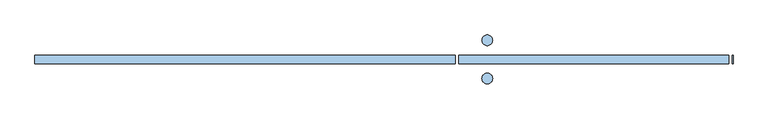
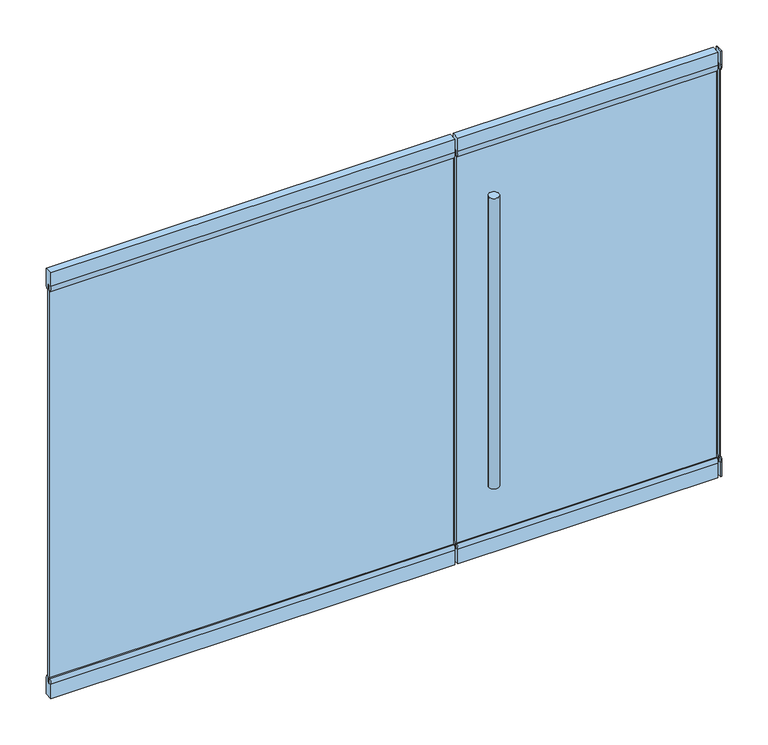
"""IFC4 building model written with IfcOpenShell, lengths in millimetres: window geometry, Herculite-1 Puerta : VL-2 - Herculite-1 Puerta 3.28 X 2.20."""

import ifcopenshell
import ifcopenshell.guid

model = None  # the IFC model being written
_history = None  # IfcOwnerHistory: only IFC2X3 demands one
_inside = {}  # id of a spatial element -> (the spatial element, [elements in it])
_under = {}  # id of a project, library or spatial element -> (it, [spatial elements below it])
_declared = {}  # id of a project -> (the project, [libraries it declares])
_typed = {}  # id of a type object -> (the type object, [elements of that type])
_made_of = {}  # id of a material, layer set ... -> (it, [elements and type objects made of it])


def new_model(schema):
    """Start an empty IFC model of exactly this schema.

    Asked for "IFC4X3", IfcOpenShell would pick the latest addendum, in which some entities
    have other attributes; the version numbers below select the first issue.
    IFC2X3 requires an IfcOwnerHistory on every rooted entity: one is made here for all.
    """
    global model, _history
    if schema == "IFC4X3":
        model = ifcopenshell.file(schema_version=(4, 3, 0, 0))
    else:
        model = ifcopenshell.file(schema=schema)
    _inside.clear()
    _under.clear()
    _declared.clear()
    _typed.clear()
    _made_of.clear()
    _history = None
    if model.schema == "IFC2X3":
        org = make("IfcOrganization", Name="unknown")
        user = make(
            "IfcPersonAndOrganization",
            ThePerson=make("IfcPerson", FamilyName="unknown"),
            TheOrganization=org,
        )
        app = make(
            "IfcApplication",
            ApplicationDeveloper=org,
            Version="unknown",
            ApplicationFullName="unknown",
            ApplicationIdentifier="unknown",
        )
        _history = make(
            "IfcOwnerHistory",
            OwningUser=user,
            OwningApplication=app,
            ChangeAction="ADDED",
            CreationDate=0,
        )
    return model


def make(cls, **values):
    """One entity of the class cls with the attributes given. An attribute that is None is left unset."""
    return model.create_entity(
        cls, **{name: value for name, value in values.items() if value is not None}
    )


def rooted(cls, **values):
    """An entity with a GlobalId (a new one), such as an element, a storey or a relation."""
    return make(cls, GlobalId=ifcopenshell.guid.new(), OwnerHistory=_history, **values)


def si_unit(unit_type, name, prefix=None):
    """IfcSIUnit, for example si_unit("LENGTHUNIT", "METRE", prefix="MILLI")."""
    return make("IfcSIUnit", UnitType=unit_type, Prefix=prefix, Name=name)


def assignment(units):
    """IfcUnitAssignment: the units of a project."""
    return None if units is None else make("IfcUnitAssignment", Units=units)


def point(xyz):
    """IfcCartesianPoint."""
    return None if xyz is None else make("IfcCartesianPoint", Coordinates=xyz)


def direction(xyz):
    """IfcDirection."""
    return None if xyz is None else make("IfcDirection", DirectionRatios=xyz)


def frame(location, z_axis=None, x_axis=None):
    """IfcAxis2Placement3D, a coordinate frame: its origin and axes. An axis left out is left unset."""
    return make(
        "IfcAxis2Placement3D",
        Location=point(location),
        Axis=direction(z_axis),
        RefDirection=direction(x_axis),
    )


def frame_2d(location, x_axis=None):
    """IfcAxis2Placement2D, a coordinate frame in the plane: its origin and x axis."""
    return make(
        "IfcAxis2Placement2D", Location=point(location), RefDirection=direction(x_axis)
    )


def origin():
    """The frame at (0, 0, 0) with its axes left unset."""
    return frame((0.0, 0.0, 0.0))


def place(relative_to, where):
    """IfcLocalPlacement: puts the frame where relative to a parent placement (None: the world)."""
    return make(
        "IfcLocalPlacement", PlacementRelTo=relative_to, RelativePlacement=where
    )


def context(
    kind, dimensions, precision=None, world=None, true_north=None, identifier=None
):
    """IfcGeometricRepresentationContext, for example the 3D "Model" context."""
    return make(
        "IfcGeometricRepresentationContext",
        ContextIdentifier=identifier,
        ContextType=kind,
        CoordinateSpaceDimension=dimensions,
        Precision=precision,
        WorldCoordinateSystem=world,
        TrueNorth=true_north,
    )


def project(units=None, contexts=None):
    """IfcProject with its units and contexts."""
    return rooted(
        "IfcProject",
        Name="project",
        RepresentationContexts=contexts,
        UnitsInContext=assignment(units),
    )


def spatial(cls, under=None, at=None, **own):
    """A site, building, storey or space (cls), placed at a placement, below another one or the project."""
    s = rooted(cls, ObjectPlacement=at, **own)
    if under is not None:
        _under.setdefault(under.id(), (under, []))[1].append(s)
    return s


def polyline(points):
    """IfcPolyline through the points."""
    return make("IfcPolyline", Points=[point(p) for p in points])


def circle_curve(where, radius):
    """IfcCircle in the frame where."""
    return make("IfcCircle", Position=where, Radius=radius)


def trimmed(basis, trim1, trim2, sense, master):
    """IfcTrimmedCurve: the piece of a basis curve between two trims."""
    return make(
        "IfcTrimmedCurve",
        BasisCurve=basis,
        Trim1=trim1,
        Trim2=trim2,
        SenseAgreement=sense,
        MasterRepresentation=master,
    )


def segment(curve, same_sense, transition):
    """IfcCompositeCurveSegment."""
    return make(
        "IfcCompositeCurveSegment",
        Transition=transition,
        SameSense=same_sense,
        ParentCurve=curve,
    )


def composite_curve(segments, self_intersect=None):
    """IfcCompositeCurve: segments joined end to end."""
    return make("IfcCompositeCurve", Segments=segments, SelfIntersect=self_intersect)


def outline(outer, holes=None, kind="AREA"):
    """IfcArbitraryClosedProfileDef: a profile drawn as a closed curve; with holes, ...WithVoids."""
    if holes is None:
        return make("IfcArbitraryClosedProfileDef", ProfileType=kind, OuterCurve=outer)
    return make(
        "IfcArbitraryProfileDefWithVoids",
        ProfileType=kind,
        OuterCurve=outer,
        InnerCurves=holes,
    )


def extrude(swept, where, along, depth):
    """IfcExtrudedAreaSolid: the profile swept, set in the frame where, extruded along a direction by depth."""
    return make(
        "IfcExtrudedAreaSolid",
        SweptArea=swept,
        Position=where,
        ExtrudedDirection=direction(along),
        Depth=depth,
    )


def shape(context_of_items, identifier, shape_type, items):
    """IfcShapeRepresentation: the items that make up one representation, for example the "Body"."""
    return make(
        "IfcShapeRepresentation",
        ContextOfItems=context_of_items,
        RepresentationIdentifier=identifier,
        RepresentationType=shape_type,
        Items=items,
    )


def source(mapping_origin, context_of_items, identifier, shape_type, items):
    """IfcRepresentationMap: a shape defined once, which mapped items show again and again."""
    return make(
        "IfcRepresentationMap",
        MappingOrigin=mapping_origin,
        MappedRepresentation=shape(context_of_items, identifier, shape_type, items),
    )


def transform(
    local_origin,
    x_axis=None,
    y_axis=None,
    z_axis=None,
    scale=None,
    scale2=None,
    scale3=None,
    uniform=True,
):
    """IfcCartesianTransformationOperator3D, or its non-uniform kind. x_axis, y_axis, z_axis: its Axis1, 2, 3."""
    if uniform:
        return make(
            "IfcCartesianTransformationOperator3D",
            Axis1=direction(x_axis),
            Axis2=direction(y_axis),
            LocalOrigin=point(local_origin),
            Scale=scale,
            Axis3=direction(z_axis),
        )
    return make(
        "IfcCartesianTransformationOperator3DnonUniform",
        Axis1=direction(x_axis),
        Axis2=direction(y_axis),
        LocalOrigin=point(local_origin),
        Scale=scale,
        Axis3=direction(z_axis),
        Scale2=scale2,
        Scale3=scale3,
    )


def mapped(mapping_source, mapping_target):
    """IfcMappedItem: shows the shape of a source again, moved by a transform."""
    return make(
        "IfcMappedItem", MappingSource=mapping_source, MappingTarget=mapping_target
    )


def made_of(thing, what):
    """Note that an element or type object is made of a material, layer set ...; save() writes the relation."""
    if what is not None:
        _made_of.setdefault(what.id(), (what, []))[1].append(thing)
    return thing


def element(
    cls,
    number,
    at=None,
    inside=None,
    cuts=None,
    type_object=None,
    material=None,
    context=None,
    identifier="Body",
    shape_type=None,
    held_by="IfcProductDefinitionShape",
    body=None,
    shapes=None,
    **own,
):
    """One element of the class cls, such as IfcWall. Its Tag is "e" and its number.

    at: its placement. inside: the storey or other place that contains it. cuts: it is an
    opening in that element (IfcRelVoidsElement). A single representation is given by context,
    identifier, shape_type and body (its items); several are given by shapes. held_by: the class
    of the entity that holds the representations. save() writes the other relations.
    """
    e = rooted(cls, Tag="e%d" % number, ObjectPlacement=at, **own)
    if body is not None:
        shapes = [shape(context, identifier, shape_type, body)]
    if shapes is not None:
        e.Representation = make(held_by, Representations=shapes)
    if inside is not None:
        _inside.setdefault(inside.id(), (inside, []))[1].append(e)
    if cuts is not None:
        rooted(
            "IfcRelVoidsElement", RelatingBuildingElement=cuts, RelatedOpeningElement=e
        )
    if type_object is not None:
        _typed.setdefault(type_object.id(), (type_object, []))[1].append(e)
    return made_of(e, material)


def aggregate(whole, parts):
    """IfcRelAggregates: a whole, such as a stair, and the parts it consists of."""
    return rooted("IfcRelAggregates", RelatingObject=whole, RelatedObjects=parts)


def save(model, path):
    """Write the relations noted so far, then the file.

    IfcRelAggregates (storeys below a building ...), IfcRelContainedInSpatialStructure (elements
    in a storey), IfcRelDefinesByType, IfcRelAssociatesMaterial and IfcRelDeclares: one each for
    every whole, place, type object, material and project.
    """
    for whole, parts in _under.values():
        aggregate(whole, parts)
    for where, things in _inside.values():
        rooted(
            "IfcRelContainedInSpatialStructure",
            RelatedElements=things,
            RelatingStructure=where,
        )
    for kind, things in _typed.values():
        rooted("IfcRelDefinesByType", RelatedObjects=things, RelatingType=kind)
    for what, things in _made_of.values():
        rooted("IfcRelAssociatesMaterial", RelatedObjects=things, RelatingMaterial=what)
    for by, libraries in _declared.values():
        rooted("IfcRelDeclares", RelatingContext=by, RelatedDefinitions=libraries)
    model.write(path)


def window_01517649(model_context):
    return source(origin(), model_context, "Body", "SweptSolid", [
        extrude(outline(composite_curve([segment(polyline([(-7.5, 2100.0), (-15.0, 2100.0)]), True, "CONTINUOUS"), segment(trimmed(circle_curve(frame_2d((80.0, 2131.22499)), 100.0), [point((-15.0, 2100.0))], [point((-20.0, 2131.22499))], False, "CARTESIAN"), True, "CONTINUOUS"), segment(polyline([(-20.0, 2131.22499), (-20.0, 2200.0), (20.0, 2200.0), (20.0, 2131.22499)]), True, "CONTINUOUS"), segment(trimmed(circle_curve(frame_2d((-80.0, 2131.22499)), 100.0), [point((20.0, 2131.22499))], [point((15.0, 2100.0))], False, "CARTESIAN"), True, "CONTINUOUS"), segment(polyline([(15.0, 2100.0), (7.5, 2100.0), (7.5, 2130.0), (-7.5, 2130.0), (-7.5, 2100.0)]), True, "CONTINUOUS")], self_intersect=False)), frame((350.0, 0.0, 0.0), z_axis=(1.0, 0.0, 0.0), x_axis=(0.0, 1.0, 0.0)), (0.0, 0.0, 1.0), 1270.0),
        extrude(outline(composite_curve([segment(polyline([(-7.5, 2100.0), (-15.0, 2100.0)]), True, "CONTINUOUS"), segment(trimmed(circle_curve(frame_2d((80.0, 2131.22499)), 100.0), [point((-15.0, 2100.0))], [point((-20.0, 2131.22499))], False, "CARTESIAN"), True, "CONTINUOUS"), segment(polyline([(-20.0, 2131.22499), (-20.0, 2200.0), (20.0, 2200.0), (20.0, 2131.22499)]), True, "CONTINUOUS"), segment(trimmed(circle_curve(frame_2d((-80.0, 2131.22499)), 100.0), [point((20.0, 2131.22499))], [point((15.0, 2100.0))], False, "CARTESIAN"), True, "CONTINUOUS"), segment(polyline([(15.0, 2100.0), (7.5, 2100.0), (7.5, 2130.0), (-7.5, 2130.0), (-7.5, 2100.0)]), True, "CONTINUOUS")], self_intersect=False)), frame((1635.0, 0.0, 0.0), z_axis=(1.0, 0.0, 0.0), x_axis=(0.0, 1.0, 0.0)), (0.0, 0.0, 1.0), 5.0),
        extrude(outline(composite_curve([segment(polyline([(-7.5, 2100.0), (-15.0, 2100.0)]), True, "CONTINUOUS"), segment(trimmed(circle_curve(frame_2d((80.0, 2131.22499)), 100.0), [point((-15.0, 2100.0))], [point((-20.0, 2131.22499))], False, "CARTESIAN"), True, "CONTINUOUS"), segment(polyline([(-20.0, 2131.22499), (-20.0, 2200.0), (20.0, 2200.0), (20.0, 2131.22499)]), True, "CONTINUOUS"), segment(trimmed(circle_curve(frame_2d((-80.0, 2131.22499)), 100.0), [point((20.0, 2131.22499))], [point((15.0, 2100.0))], False, "CARTESIAN"), True, "CONTINUOUS"), segment(polyline([(15.0, 2100.0), (7.5, 2100.0), (7.5, 2130.0), (-7.5, 2130.0), (-7.5, 2100.0)]), True, "CONTINUOUS")], self_intersect=False)), frame((-1640.0, 0.0, 0.0), z_axis=(1.0, 0.0, 0.0), x_axis=(0.0, 1.0, 0.0)), (0.0, 0.0, 1.0), 1975.0),
        extrude(outline(composite_curve([segment(trimmed(circle_curve(frame_2d((485.1, -90.00005)), 25.0), [point((460.1, -90.00005))], [point((510.1, -90.00005))], False, "CARTESIAN"), True, "CONTINUOUS"), segment(trimmed(circle_curve(frame_2d((485.1, -90.00005)), 25.0), [point((510.1, -90.00005))], [point((460.1, -90.00005))], False, "CARTESIAN"), True, "CONTINUOUS")], self_intersect=False)), frame((0.0, 0.0, 400.0), z_axis=(0.0, 0.0, 1.0), x_axis=(1.0, 0.0, 0.0)), (0.0, 0.0, 1.0), 1500.0),
        extrude(outline(composite_curve([segment(trimmed(circle_curve(frame_2d((485.1, 90.00005)), 25.0), [point((460.1, 90.00005))], [point((510.1, 90.00005))], False, "CARTESIAN"), True, "CONTINUOUS"), segment(trimmed(circle_curve(frame_2d((485.1, 90.00005)), 25.0), [point((510.1, 90.00005))], [point((460.1, 90.00005))], False, "CARTESIAN"), True, "CONTINUOUS")], self_intersect=False)), frame((0.0, 0.0, 400.0), z_axis=(0.0, 0.0, 1.0), x_axis=(1.0, 0.0, 0.0)), (0.0, 0.0, 1.0), 1500.0),
        extrude(outline(composite_curve([segment(polyline([(-7.5, 100.0), (-7.5, 70.0), (7.5, 70.0), (7.5, 100.0), (15.0, 100.0)]), True, "CONTINUOUS"), segment(trimmed(circle_curve(frame_2d((-45.0, 75.0)), 65.0), [point((15.0, 100.0))], [point((20.0, 75.0))], False, "CARTESIAN"), True, "CONTINUOUS"), segment(polyline([(20.0, 75.0), (20.0, 0.0), (-20.0, 0.0), (-20.0, 75.0)]), True, "CONTINUOUS"), segment(trimmed(circle_curve(frame_2d((45.0, 75.0)), 65.0), [point((-20.0, 75.0))], [point((-15.0, 100.0))], False, "CARTESIAN"), True, "CONTINUOUS"), segment(polyline([(-15.0, 100.0), (-7.5, 100.0)]), True, "CONTINUOUS")], self_intersect=False)), frame((350.0, 0.0, 0.0), z_axis=(1.0, 0.0, 0.0), x_axis=(0.0, 1.0, 0.0)), (0.0, 0.0, 1.0), 1270.0),
        extrude(outline(polyline([(350.0, -5.5), (350.0, 5.5), (1620.0, 5.5), (1620.0, -5.5), (350.0, -5.5)])), frame((0.0, 0.0, 72.0), z_axis=(0.0, 0.0, 1.0), x_axis=(1.0, 0.0, 0.0)), (0.0, 0.0, 1.0), 2056.0),
        extrude(outline(composite_curve([segment(polyline([(-7.5, 100.0), (-7.5, 70.0), (7.5, 70.0), (7.5, 100.0), (15.0, 100.0)]), True, "CONTINUOUS"), segment(trimmed(circle_curve(frame_2d((-45.0, 75.0)), 65.0), [point((15.0, 100.0))], [point((20.0, 75.0))], False, "CARTESIAN"), True, "CONTINUOUS"), segment(polyline([(20.0, 75.0), (20.0, 0.0), (-20.0, 0.0), (-20.0, 75.0)]), True, "CONTINUOUS"), segment(trimmed(circle_curve(frame_2d((45.0, 75.0)), 65.0), [point((-20.0, 75.0))], [point((-15.0, 100.0))], False, "CARTESIAN"), True, "CONTINUOUS"), segment(polyline([(-15.0, 100.0), (-7.5, 100.0)]), True, "CONTINUOUS")], self_intersect=False)), frame((1635.0, 0.0, 0.0), z_axis=(1.0, 0.0, 0.0), x_axis=(0.0, 1.0, 0.0)), (0.0, 0.0, 1.0), 5.0),
        extrude(outline(composite_curve([segment(polyline([(-7.5, 100.0), (-7.5, 70.0), (7.5, 70.0), (7.5, 100.0), (15.0, 100.0)]), True, "CONTINUOUS"), segment(trimmed(circle_curve(frame_2d((-45.0, 75.0)), 65.0), [point((15.0, 100.0))], [point((20.0, 75.0))], False, "CARTESIAN"), True, "CONTINUOUS"), segment(polyline([(20.0, 75.0), (20.0, 0.0), (-20.0, 0.0), (-20.0, 75.0)]), True, "CONTINUOUS"), segment(trimmed(circle_curve(frame_2d((45.0, 75.0)), 65.0), [point((-20.0, 75.0))], [point((-15.0, 100.0))], False, "CARTESIAN"), True, "CONTINUOUS"), segment(polyline([(-15.0, 100.0), (-7.5, 100.0)]), True, "CONTINUOUS")], self_intersect=False)), frame((-1640.0, 0.0, 0.0), z_axis=(1.0, 0.0, 0.0), x_axis=(0.0, 1.0, 0.0)), (0.0, 0.0, 1.0), 1975.0),
        extrude(outline(polyline([(1635.0, -5.5), (1635.0, 5.5), (1640.0, 5.5), (1640.0, -5.5), (1635.0, -5.5)])), frame((0.0, 0.0, 72.0), z_axis=(0.0, 0.0, 1.0), x_axis=(1.0, 0.0, 0.0)), (0.0, 0.0, 1.0), 2056.0),
        extrude(outline(polyline([(-1640.0, -5.5), (-1640.0, 5.5), (335.0, 5.5), (335.0, -5.5), (-1640.0, -5.5)])), frame((0.0, 0.0, 72.0), z_axis=(0.0, 0.0, 1.0), x_axis=(1.0, 0.0, 0.0)), (0.0, 0.0, 1.0), 2056.0),
    ])


if __name__ == "__main__":
    model = new_model("IFC4")
    model_context = context("Model", 3, world=origin())
    ifc_project = project(units=[si_unit("LENGTHUNIT", "METRE", prefix="MILLI")], contexts=[model_context])
    site = spatial("IfcSite", under=ifc_project)
    building = spatial("IfcBuilding", under=site)
    placement = place(None, origin())
    window_shape = window_01517649(model_context)
    element("IfcWindow", 1, ObjectType="Herculite-1 Puerta : VL-2 - Herculite-1 Puerta 3.28 X 2.20", at=placement, inside=building, context=model_context, shape_type="MappedRepresentation", body=[
        mapped(window_shape, transform((0.0, 0.0, 0.0), x_axis=(1.0, 0.0, 0.0), y_axis=(0.0, 1.0, 0.0), z_axis=(0.0, 0.0, 1.0))),
    ])
    save(model, "model.ifc")
